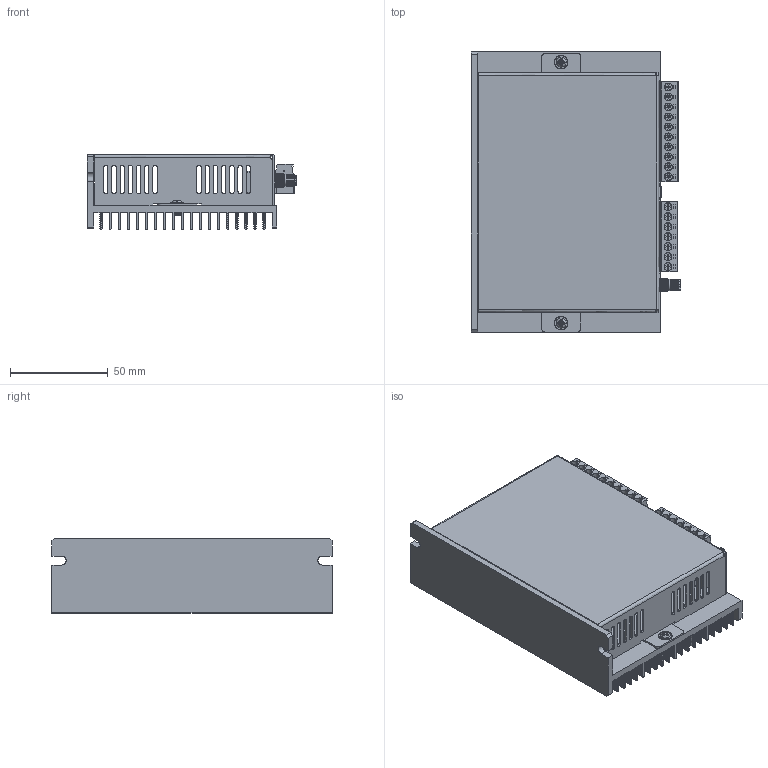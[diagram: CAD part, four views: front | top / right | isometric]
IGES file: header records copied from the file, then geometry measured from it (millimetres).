
Start section: SolidWorks IGES file using analytic representation for surfaces
Global section: file name: C:\Users\kawak\Desktop\ドライバー\MLD-030-ST.IGS; native system: SolidWorks 2016; preprocessor: SolidWorks 2016; author: kawak; date: 190624.094913; units: millimetre
Bounding box: 106.81 x 143.2 x 38.24 mm (x, y, z)
Surface area: 144796.5 mm2 (no closed solid volume)
Topology: 0 solids, 0 shells, 2301 faces, 24639 edges, 24628 vertices
Faces by surface type: bspline 1248, revolution 1053
